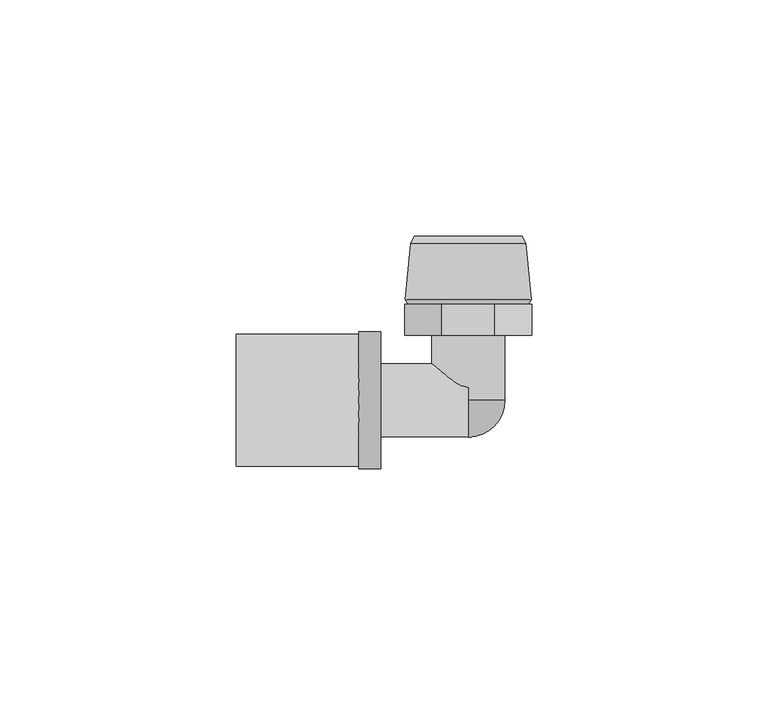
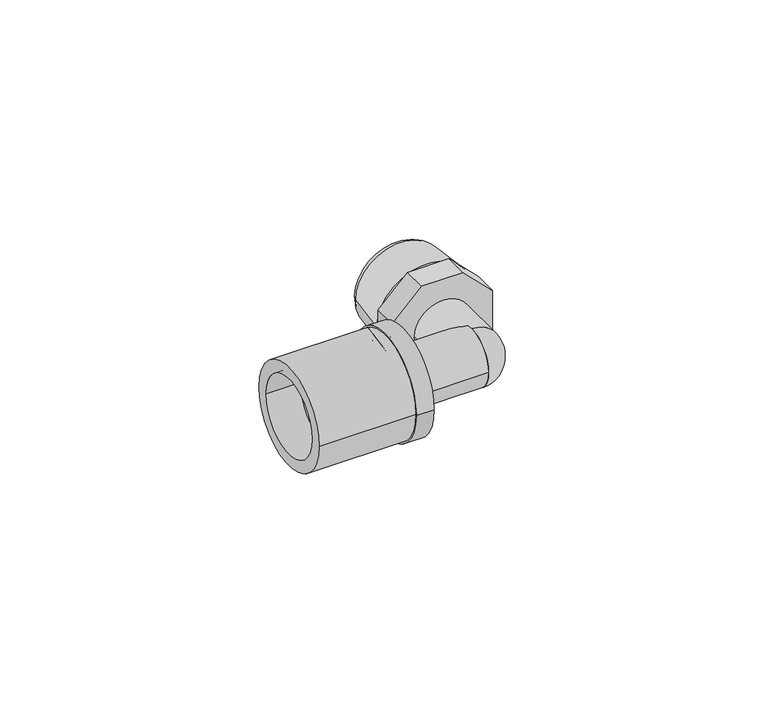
"""IFC4 building model written with IfcOpenShell, lengths in millimetres: pipe fitting geometry, FASTLOC_Elbow with male thread EX+ : FSL A internal AT."""

from ifc_helpers import new_model, si_unit, point, frame, origin, origin_2d, place, context, project, spatial, polyline, circle_curve, ellipse_curve, trimmed, segment, composite_curve, outline, extrude, source, transform, mapped, element, save
from ifc_brep_helpers import plane_surface, cylinder_surface, revolved_surface, advanced_brep


def pipe_fitting_05bb6e73(model_context):
    return source(origin(), model_context, "Body", "SolidModel", [
        extrude(outline(composite_curve([segment(trimmed(circle_curve(origin_2d(), 14.0), [point((14.0, 0.0))], [point((-14.0, 0.0))], False, "CARTESIAN"), True, "CONTINUOUS"), segment(trimmed(circle_curve(origin_2d(), 14.0), [point((-14.0, 0.0))], [point((14.0, 0.0))], False, "CARTESIAN"), True, "CONTINUOUS")], self_intersect=False), holes=[composite_curve([segment(trimmed(circle_curve(origin_2d(), 10.7), [point((10.7, 0.0))], [point((-10.7, 0.0))], True, "CARTESIAN"), True, "CONTINUOUS"), segment(trimmed(circle_curve(origin_2d(), 10.7), [point((-10.7, 0.0))], [point((10.7, 0.0))], True, "CARTESIAN"), True, "CONTINUOUS")], self_intersect=False)]), frame((-49.2, 0.0, 0.0), z_axis=(1.0, 0.0, 0.0), x_axis=(0.0, 1.0, 0.0)), (0.0, 0.0, 1.0), 26.0),
        advanced_brep(
        [(-23.2, -14.5, 0.0), (-23.2, 14.5, 0.0), (-18.5, 14.5, 0.0), (-18.5, -14.5, 0.0), (-40.2, -11.85, 0.0), (-40.2, 11.85, 0.0), (-23.2, 11.85, 0.0), (-23.2, -11.85, 0.0), (-18.5, -10.15, 0.0), (-18.5, 10.15, 0.0), (-40.2, 10.15, 0.0), (-40.2, -10.15, 0.0)],
        [
            (0, 1, circle_curve(frame((-23.2, 0.0, 0.0), z_axis=(1.0, 0.0, 0.0), x_axis=(0.0, 1.0, 0.0)), 14.5)),
            (1, 2),
            (2, 3, circle_curve(frame((-18.5, 0.0, 0.0), z_axis=(-1.0, 0.0, 0.0), x_axis=(0.0, 1.0, 0.0)), 14.5)),
            (3, 0),
            (4, 5, circle_curve(frame((-40.2, 0.0, 0.0), z_axis=(1.0, 0.0, 0.0), x_axis=(0.0, 1.0, 0.0)), 11.85)),
            (5, 6),
            (6, 7, circle_curve(frame((-23.2, 0.0, 0.0), z_axis=(-1.0, 0.0, 0.0), x_axis=(0.0, 1.0, 0.0)), 11.85)),
            (7, 4),
            (8, 9, circle_curve(frame((-18.5, 0.0, 0.0), z_axis=(1.0, 0.0, 0.0), x_axis=(0.0, 1.0, 0.0)), 10.15)),
            (9, 10),
            (10, 11, circle_curve(frame((-40.2, 0.0, 0.0), z_axis=(-1.0, 0.0, 0.0), x_axis=(0.0, 1.0, 0.0)), 10.15)),
            (11, 8),
            (1, 0, circle_curve(frame((-23.2, 0.0, 0.0), z_axis=(1.0, 0.0, 0.0), x_axis=(0.0, -1.0, 0.0)), 14.5)),
            (3, 2, circle_curve(frame((-18.5, 0.0, 0.0), z_axis=(-1.0, 0.0, 0.0), x_axis=(0.0, -1.0, 0.0)), 14.5)),
            (6, 7, circle_curve(frame((-23.2, 0.0, 0.0), z_axis=(1.0, 0.0, 0.0), x_axis=(0.0, -1.0, 0.0)), 11.85)),
            (5, 4, circle_curve(frame((-40.2, 0.0, 0.0), z_axis=(1.0, 0.0, 0.0), x_axis=(0.0, -1.0, 0.0)), 11.85)),
            (10, 11, circle_curve(frame((-40.2, 0.0, 0.0), z_axis=(1.0, 0.0, 0.0), x_axis=(0.0, -1.0, 0.0)), 10.15)),
            (9, 8, circle_curve(frame((-18.5, 0.0, 0.0), z_axis=(1.0, 0.0, 0.0), x_axis=(0.0, -1.0, 0.0)), 10.15)),
        ],
        [
            cylinder_surface(frame((-18.5, 0.0, 0.0), z_axis=(-1.0, 0.0, 0.0), x_axis=(0.0, 1.0, 0.0)), 14.5),
            cylinder_surface(frame((-18.5, 0.0, 0.0), z_axis=(-1.0, 0.0, 0.0), x_axis=(0.0, 1.0, 0.0)), 11.85),
            revolved_surface(polyline([(-40.2, 10.15, 0.0), (-18.5, 10.15, 0.0)]), (-18.5, 0.0, 0.0), (-1.0, 0.0, 0.0)),
            cylinder_surface(frame((-18.5, 0.0, 0.0), z_axis=(-1.0, 0.0, 0.0), x_axis=(0.0, -1.0, 0.0)), 14.5),
            plane_surface(frame((-23.2, 0.0, 0.0), z_axis=(-1.0, 0.0, 0.0), x_axis=(0.0, -1.0, 0.0))),
            cylinder_surface(frame((-18.5, 0.0, 0.0), z_axis=(-1.0, 0.0, 0.0), x_axis=(0.0, -1.0, 0.0)), 11.85),
            plane_surface(frame((-40.2, 0.0, 0.0), z_axis=(-1.0, 0.0, 0.0), x_axis=(0.0, -1.0, 0.0))),
            revolved_surface(polyline([(-40.2, -10.15, 0.0), (-18.5, -10.15, 0.0)]), (-18.5, 0.0, 0.0), (-1.0, 0.0, 0.0)),
            plane_surface(frame((-18.5, 0.0, 0.0), z_axis=(1.0, 0.0, 0.0), x_axis=(0.0, -1.0, 0.0))),
        ],
        [
            (0, [[1, 2, 3, 4]]),
            (1, [[5, 6, 7, 8]]),
            (2, [[9, 10, 11, 12]]),
            (3, [[13, -4, 14, -2]]),
            (4, [[-13, -1], [15, -7]]),
            (5, [[16, -8, -15, -6]]),
            (6, [[-16, -5], [17, -11]]),
            (7, [[18, -12, -17, -10]]),
            (8, [[-14, -3], [-18, -9]]),
        ],
    ),
        advanced_brep(
        [(12.15, 33.3000007, 0.0), (-12.15, 33.3000007, 0.0), (-11.45, 34.8, 0.0), (11.45, 34.8, 0.0), (13.3, 21.3531902, 0.0), (-13.3, 21.3531902, 0.0), (12.7, 20.3, 0.0), (-12.7, 20.3, 0.0), (9.5, 21.7157803, 0.0), (-9.5, 21.7157803, 0.0), (-8.3967197, 20.3, 0.0), (8.3967197, 20.3, 0.0), (9.5, 34.8, 0.0), (-9.5, 34.8, 0.0)],
        [
            (0, 1, circle_curve(frame((0.0, 33.3000007, 0.0), z_axis=(0.0, 1.0, 0.0), x_axis=(-1.0, 0.0, 0.0)), 12.15)),
            (1, 2),
            (2, 3, circle_curve(frame((0.0, 34.8, 0.0), z_axis=(0.0, -1.0, 0.0), x_axis=(-1.0, 0.0, 0.0)), 11.45)),
            (3, 0),
            (4, 5, circle_curve(frame((0.0, 21.3531902, 0.0), z_axis=(0.0, 1.0, 0.0), x_axis=(-1.0, 0.0, 0.0)), 13.3)),
            (5, 1),
            (0, 4),
            (6, 7, circle_curve(frame((0.0, 20.3, 0.0), z_axis=(0.0, 1.0, 0.0), x_axis=(-1.0, 0.0, 0.0)), 12.7)),
            (7, 5),
            (4, 6),
            (8, 9, circle_curve(frame((0.0, 21.7157803, 0.0), z_axis=(0.0, 1.0, 0.0), x_axis=(-1.0, 0.0, 0.0)), 9.5)),
            (9, 10),
            (10, 11, circle_curve(frame((0.0, 20.3, 0.0), z_axis=(0.0, -1.0, 0.0), x_axis=(-1.0, 0.0, 0.0)), 8.3967197)),
            (11, 8),
            (12, 13, circle_curve(frame((0.0, 34.8, 0.0), z_axis=(0.0, 1.0, 0.0), x_axis=(-1.0, 0.0, 0.0)), 9.5)),
            (13, 9),
            (8, 12),
            (2, 3, circle_curve(frame((0.0, 34.8, 0.0), z_axis=(0.0, 1.0, 0.0), x_axis=(1.0, 0.0, 0.0)), 11.45)),
            (12, 13, circle_curve(frame((0.0, 34.8, 0.0), z_axis=(0.0, -1.0, 0.0), x_axis=(1.0, 0.0, 0.0)), 9.5)),
            (1, 0, circle_curve(frame((0.0, 33.3000007, 0.0), z_axis=(0.0, 1.0, 0.0), x_axis=(1.0, 0.0, 0.0)), 12.15)),
            (5, 4, circle_curve(frame((0.0, 21.3531902, 0.0), z_axis=(0.0, 1.0, 0.0), x_axis=(1.0, 0.0, 0.0)), 13.3)),
            (7, 6, circle_curve(frame((0.0, 20.3, 0.0), z_axis=(0.0, 1.0, 0.0), x_axis=(1.0, 0.0, 0.0)), 12.7)),
            (10, 11, circle_curve(frame((0.0, 20.3, 0.0), z_axis=(0.0, 1.0, 0.0), x_axis=(1.0, 0.0, 0.0)), 8.3967197)),
            (9, 8, circle_curve(frame((0.0, 21.7157803, 0.0), z_axis=(0.0, 1.0, 0.0), x_axis=(1.0, 0.0, 0.0)), 9.5)),
        ],
        [
            revolved_surface(polyline([(-11.45, 34.8, 0.0), (-12.15, 33.3000007, 0.0)]), (0.0, 13.8, 0.0), (0.0, -1.0, 0.0)),
            revolved_surface(polyline([(-12.15, 33.3000007, 0.0), (-13.3, 21.3531902, 0.0)]), (0.0, 13.8, 0.0), (0.0, -1.0, 0.0)),
            revolved_surface(polyline([(-13.3, 21.3531902, 0.0), (-12.7, 20.3, 0.0)]), (0.0, 13.8, 0.0), (0.0, -1.0, 0.0)),
            revolved_surface(polyline([(-8.3967197, 20.3, 0.0), (-9.5, 21.7157803, 0.0)]), (0.0, 13.8, 0.0), (0.0, -1.0, 0.0)),
            revolved_surface(polyline([(-9.5, 21.7157803, 0.0), (-9.5, 34.8, 0.0)]), (0.0, 13.8, 0.0), (0.0, -1.0, 0.0)),
            plane_surface(frame((0.0, 34.8, 0.0), z_axis=(0.0, 1.0, 0.0), x_axis=(1.0, 0.0, 0.0))),
            revolved_surface(polyline([(11.45, 34.8, 0.0), (12.15, 33.3000007, 0.0)]), (0.0, 13.8, 0.0), (0.0, -1.0, 0.0)),
            revolved_surface(polyline([(12.15, 33.3000007, 0.0), (13.3, 21.3531902, 0.0)]), (0.0, 13.8, 0.0), (0.0, -1.0, 0.0)),
            revolved_surface(polyline([(13.3, 21.3531902, 0.0), (12.7, 20.3, 0.0)]), (0.0, 13.8, 0.0), (0.0, -1.0, 0.0)),
            plane_surface(frame((0.0, 20.3, 0.0), z_axis=(0.0, -1.0, 0.0), x_axis=(1.0, 0.0, 0.0))),
            revolved_surface(polyline([(8.3967197, 20.3, 0.0), (9.5, 21.7157803, 0.0)]), (0.0, 13.8, 0.0), (0.0, -1.0, 0.0)),
            revolved_surface(polyline([(9.5, 21.7157803, 0.0), (9.5, 34.8, 0.0)]), (0.0, 13.8, 0.0), (0.0, -1.0, 0.0)),
        ],
        [
            (0, [[1, 2, 3, 4]]),
            (1, [[5, 6, -1, 7]]),
            (2, [[8, 9, -5, 10]]),
            (3, [[11, 12, 13, 14]]),
            (4, [[15, 16, -11, 17]]),
            (5, [[18, -3], [19, -15]]),
            (6, [[20, -4, -18, -2]]),
            (7, [[21, -7, -20, -6]]),
            (8, [[22, -10, -21, -9]]),
            (9, [[-22, -8], [23, -13]]),
            (10, [[24, -14, -23, -12]]),
            (11, [[-19, -17, -24, -16]]),
        ],
    ),
        advanced_brep(
        [(-23.2, 7.75, 0.0), (-23.2, -7.75, 0.0), (-40.6, -7.75, 0.0), (-40.6, 7.75, 0.0), (-20.5, 8.8, 0.0), (-20.5, -8.8, 0.0), (-23.2, -8.8, 0.0), (-23.2, 8.8, 0.0), (0.0, 7.75, 0.0), (0.0, -7.75, 0.0), (-20.5, -7.75, 0.0), (-20.5, 7.75, 0.0), (-40.6, 5.75, 0.0), (-40.6, -5.75, 0.0), (0.0, -5.75, 0.0), (0.0, 5.75, 0.0)],
        [
            (0, 1, circle_curve(frame((-23.2, 0.0, 0.0), z_axis=(-1.0, 0.0, 0.0), x_axis=(0.0, -1.0, 0.0)), 7.75)),
            (1, 2),
            (2, 3, circle_curve(frame((-40.6, 0.0, 0.0), z_axis=(1.0, 0.0, 0.0), x_axis=(0.0, -1.0, 0.0)), 7.75)),
            (3, 0),
            (4, 5, circle_curve(frame((-20.5, 0.0, 0.0), z_axis=(-1.0, 0.0, 0.0), x_axis=(0.0, -1.0, 0.0)), 8.8)),
            (5, 6),
            (6, 7, circle_curve(frame((-23.2, 0.0, 0.0), z_axis=(1.0, 0.0, 0.0), x_axis=(0.0, -1.0, 0.0)), 8.8)),
            (7, 4),
            (8, 9, circle_curve(frame((0.0, 0.0, 0.0), z_axis=(-1.0, 0.0, 0.0), x_axis=(0.0, -1.0, 0.0)), 7.75)),
            (9, 10),
            (10, 11, circle_curve(frame((-20.5, 0.0, 0.0), z_axis=(1.0, 0.0, 0.0), x_axis=(0.0, -1.0, 0.0)), 7.75)),
            (11, 8),
            (12, 13, circle_curve(frame((-40.6, 0.0, 0.0), z_axis=(-1.0, 0.0, 0.0), x_axis=(0.0, -1.0, 0.0)), 5.75)),
            (13, 14),
            (14, 15, circle_curve(frame((0.0, 0.0, 0.0), z_axis=(1.0, 0.0, 0.0), x_axis=(0.0, -1.0, 0.0)), 5.75)),
            (15, 12),
            (2, 3, circle_curve(frame((-40.6, 0.0, 0.0), z_axis=(-1.0, 0.0, 0.0), x_axis=(0.0, 1.0, 0.0)), 7.75)),
            (12, 13, circle_curve(frame((-40.6, 0.0, 0.0), z_axis=(1.0, 0.0, 0.0), x_axis=(0.0, 1.0, 0.0)), 5.75)),
            (1, 0, circle_curve(frame((-23.2, 0.0, 0.0), z_axis=(-1.0, 0.0, 0.0), x_axis=(0.0, 1.0, 0.0)), 7.75)),
            (6, 7, circle_curve(frame((-23.2, 0.0, 0.0), z_axis=(-1.0, 0.0, 0.0), x_axis=(0.0, 1.0, 0.0)), 8.8)),
            (5, 4, circle_curve(frame((-20.5, 0.0, 0.0), z_axis=(-1.0, 0.0, 0.0), x_axis=(0.0, 1.0, 0.0)), 8.8)),
            (10, 11, circle_curve(frame((-20.5, 0.0, 0.0), z_axis=(-1.0, 0.0, 0.0), x_axis=(0.0, 1.0, 0.0)), 7.75)),
            (9, 8, circle_curve(frame((0.0, 0.0, 0.0), z_axis=(-1.0, 0.0, 0.0), x_axis=(0.0, 1.0, 0.0)), 7.75)),
            (14, 15, circle_curve(frame((0.0, 0.0, 0.0), z_axis=(-1.0, 0.0, 0.0), x_axis=(0.0, 1.0, 0.0)), 5.75)),
        ],
        [
            cylinder_surface(frame((0.0, 0.0, 0.0), z_axis=(1.0, 0.0, 0.0), x_axis=(0.0, -1.0, 0.0)), 7.75),
            cylinder_surface(frame((0.0, 0.0, 0.0), z_axis=(1.0, 0.0, 0.0), x_axis=(0.0, -1.0, 0.0)), 8.8),
            revolved_surface(polyline([(0.0, -5.75, 0.0), (-40.6, -5.75, 0.0)]), (0.0, 0.0, 0.0), (1.0, 0.0, 0.0)),
            plane_surface(frame((-40.6, 0.0, 0.0), z_axis=(-1.0, 0.0, 0.0), x_axis=(0.0, 1.0, 0.0))),
            cylinder_surface(frame((0.0, 0.0, 0.0), z_axis=(1.0, 0.0, 0.0), x_axis=(0.0, 1.0, 0.0)), 7.75),
            plane_surface(frame((-23.2, 0.0, 0.0), z_axis=(-1.0, 0.0, 0.0), x_axis=(0.0, 1.0, 0.0))),
            cylinder_surface(frame((0.0, 0.0, 0.0), z_axis=(1.0, 0.0, 0.0), x_axis=(0.0, 1.0, 0.0)), 8.8),
            plane_surface(frame((-20.5, 0.0, 0.0), z_axis=(1.0, 0.0, 0.0), x_axis=(0.0, 1.0, 0.0))),
            plane_surface(frame((0.0, 0.0, 0.0), z_axis=(1.0, 0.0, 0.0), x_axis=(0.0, 1.0, 0.0))),
            revolved_surface(polyline([(0.0, 5.75, 0.0), (-40.6, 5.75, 0.0)]), (0.0, 0.0, 0.0), (1.0, 0.0, 0.0)),
        ],
        [
            (0, [[1, 2, 3, 4]]),
            (1, [[5, 6, 7, 8]]),
            (0, [[9, 10, 11, 12]]),
            (2, [[13, 14, 15, 16]]),
            (3, [[17, -3], [18, -13]]),
            (4, [[19, -4, -17, -2]]),
            (5, [[20, -7], [-19, -1]]),
            (6, [[21, -8, -20, -6]]),
            (7, [[-21, -5], [22, -11]]),
            (4, [[23, -12, -22, -10]]),
            (8, [[-23, -9], [24, -15]]),
            (9, [[-18, -16, -24, -14]]),
        ],
    ),
        advanced_brep(
        [(0.0, -7.8, 0.0), (0.0, 0.0, 7.8), (0.0, 0.0, 5.75), (0.0, -5.75, 0.0), (0.0, 0.0, -5.75), (0.0, 0.0, -7.8)],
        [
            (0, 1, circle_curve(frame((0.0, 0.0, 0.0), z_axis=(-1.0, 0.0, 0.0), x_axis=(0.0, 0.0, 1.0)), 7.8)),
            (1, 2),
            (2, 3, circle_curve(frame((0.0, 0.0, 0.0), z_axis=(1.0, 0.0, 0.0), x_axis=(0.0, 0.0, 1.0)), 5.75)),
            (3, 0),
            (3, 4, circle_curve(frame((0.0, 0.0, 0.0), z_axis=(1.0, 0.0, 0.0), x_axis=(0.0, 0.0, -1.0)), 5.75)),
            (4, 5),
            (5, 0, circle_curve(frame((0.0, 0.0, 0.0), z_axis=(-1.0, 0.0, 0.0), x_axis=(0.0, 0.0, -1.0)), 7.8)),
            (5, 1, circle_curve(frame((0.0, 0.0, 0.0), z_axis=(0.0, -1.0, 0.0), x_axis=(0.0, 0.0, 1.0)), 7.8)),
            (4, 2, circle_curve(frame((0.0, 0.0, 0.0), z_axis=(0.0, -1.0, 0.0), x_axis=(0.0, 0.0, 1.0)), 5.75)),
        ],
        [
            plane_surface(frame((0.0, 0.0, 0.0), z_axis=(-1.0, 0.0, 0.0), x_axis=(0.0, 0.0, 1.0))),
            plane_surface(frame((0.0, 0.0, 0.0), z_axis=(-1.0, 0.0, 0.0), x_axis=(0.0, 0.0, -1.0))),
            revolved_surface(trimmed(ellipse_curve(frame((0.0, 0.0, 0.0), z_axis=(-1.0, 0.0, 0.0), x_axis=(0.0, 0.0, 1.0)), 7.8, 7.8), [point((0.0, -7.8, 0.0))], [point((0.0, 0.0, 7.8))], True, "CARTESIAN"), (0.0, 0.0, 0.0), (0.0, 1.0, 0.0)),
            plane_surface(frame((0.0, 0.0, 0.0), z_axis=(0.0, 1.0, 0.0), x_axis=(0.0, 0.0, 1.0))),
            revolved_surface(trimmed(ellipse_curve(frame((0.0, 0.0, 0.0), z_axis=(1.0, 0.0, 0.0), x_axis=(0.0, 0.0, 1.0)), 5.75, 5.75), [point((0.0, 0.0, 5.75))], [point((0.0, -5.75, 0.0))], True, "CARTESIAN"), (0.0, 0.0, 0.0), (0.0, 1.0, 0.0)),
        ],
        [
            (0, [[1, 2, 3, 4]]),
            (1, [[5, 6, 7, -4]]),
            (2, [[8, -1, -7]]),
            (3, [[9, -2, -8, -6]]),
            (4, [[-3, -9, -5]]),
        ],
    ),
        extrude(outline(polyline([(-13.5, 5.5918831), (-5.5918831, 13.5), (5.5918831, 13.5), (13.5, 5.5918831), (13.5, -5.5918831), (5.5918831, -13.5), (-5.5918831, -13.5), (-13.5, -5.5918831), (-13.5, 5.5918831)])), frame((0.0, 13.8, 0.0), z_axis=(0.0, 1.0, 0.0), x_axis=(0.0, 0.0, 1.0)), (0.0, 0.0, 1.0), 6.5),
        extrude(outline(composite_curve([segment(trimmed(circle_curve(origin_2d(), 7.75), [point((0.0, -7.75))], [point((0.0, 7.75))], False, "CARTESIAN"), True, "CONTINUOUS"), segment(trimmed(circle_curve(origin_2d(), 7.75), [point((0.0, 7.75))], [point((0.0, -7.75))], False, "CARTESIAN"), True, "CONTINUOUS")], self_intersect=False), holes=[composite_curve([segment(trimmed(circle_curve(origin_2d(), 5.75), [point((0.0, -5.75))], [point((0.0, 5.75))], True, "CARTESIAN"), True, "CONTINUOUS"), segment(trimmed(circle_curve(origin_2d(), 5.75), [point((0.0, 5.75))], [point((0.0, -5.75))], True, "CARTESIAN"), True, "CONTINUOUS")], self_intersect=False)]), frame((0.0, 0.0, 0.0), z_axis=(0.0, 1.0, 0.0), x_axis=(0.0, 0.0, 1.0)), (0.0, 0.0, 1.0), 13.8),
    ])


if __name__ == "__main__":
    model = new_model("IFC4")
    model_context = context("Model", 3, world=origin())
    ifc_project = project(units=[si_unit("LENGTHUNIT", "METRE", prefix="MILLI")], contexts=[model_context])
    site = spatial("IfcSite", under=ifc_project)
    building = spatial("IfcBuilding", under=site)
    placement = place(None, origin())
    pipe_fitting_shape = pipe_fitting_05bb6e73(model_context)
    element("IfcPipeFitting", 1, ObjectType="FASTLOC_Elbow with male thread EX+ : FSL A internal AT", at=placement, inside=building, context=model_context, shape_type="MappedRepresentation", body=[
        mapped(pipe_fitting_shape, transform((0.0, 0.0, 0.0), x_axis=(1.0, 0.0, 0.0), y_axis=(0.0, 1.0, 0.0), z_axis=(0.0, 0.0, 1.0))),
    ])
    save(model, "model.ifc")
